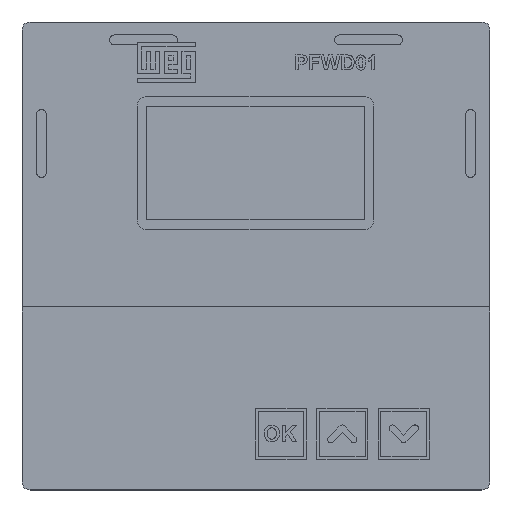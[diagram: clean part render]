
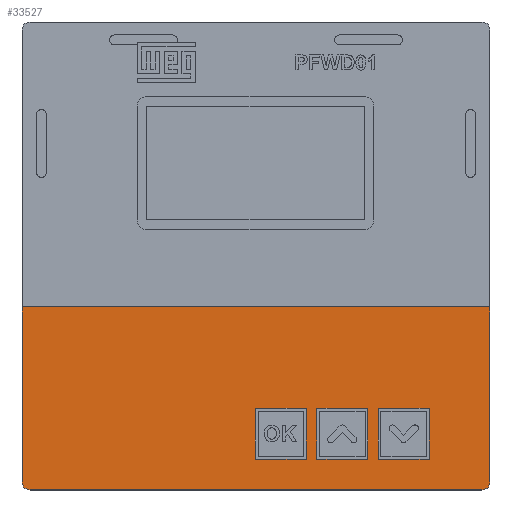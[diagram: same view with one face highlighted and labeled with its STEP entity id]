
A CAD part, top view. The second image highlights one B-rep face of the part: STEP entity #33527.
In plain terms, the highlighted planar face has unit normal (0, 0, 1).
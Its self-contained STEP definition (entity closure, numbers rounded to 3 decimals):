
#257 = DIRECTION ( 'NONE',  ( 0., -1., 0. ) ) ;
#361 = DIRECTION ( 'NONE',  ( 0., 1., 0. ) ) ;
#640 = LINE ( 'NONE', #16891, #42076 ) ;
#826 = VECTOR ( 'NONE', #5962, 1000. ) ;
#1654 = VECTOR ( 'NONE', #361, 1000. ) ;
#2263 = LINE ( 'NONE', #9103, #60604 ) ;
#2529 = VERTEX_POINT ( 'NONE', #49705 ) ;
#3316 = DIRECTION ( 'NONE',  ( 0., 0., 1. ) ) ;
#3391 = EDGE_CURVE ( 'NONE', #17124, #6816, #17786, .T. ) ;
#4122 = CARTESIAN_POINT ( 'NONE',  ( 69.8, -47.091, 4.55 ) ) ;
#5540 = CARTESIAN_POINT ( 'NONE',  ( 37.761, -62.841, 4.55 ) ) ;
#5610 = DIRECTION ( 'NONE',  ( 1., 0., 0. ) ) ;
#5685 = VECTOR ( 'NONE', #27379, 1000. ) ;
#5962 = DIRECTION ( 'NONE',  ( -1., 0., 0. ) ) ;
#6151 = ORIENTED_EDGE ( 'NONE', *, *, #30597, .T. ) ;
#6620 = CARTESIAN_POINT ( 'NONE',  ( 53.511, -69.8, 4.55 ) ) ;
#6729 = EDGE_CURVE ( 'NONE', #6816, #72553, #26116, .T. ) ;
#6816 = VERTEX_POINT ( 'NONE', #84015 ) ;
#7470 = VERTEX_POINT ( 'NONE', #68021 ) ;
#9103 = CARTESIAN_POINT ( 'NONE',  ( 37.761, -69.8, 4.55 ) ) ;
#9972 = DIRECTION ( 'NONE',  ( 0., 0., 1. ) ) ;
#10756 = CARTESIAN_POINT ( 'NONE',  ( -0.181, -69.8, 4.55 ) ) ;
#11171 = VERTEX_POINT ( 'NONE', #76195 ) ;
#11431 = EDGE_LOOP ( 'NONE', ( #25883, #52207, #68464, #50308 ) ) ;
#11888 = LINE ( 'NONE', #77406, #35038 ) ;
#12574 = CARTESIAN_POINT ( 'NONE',  ( 69.8, -62.841, 4.55 ) ) ;
#14661 = CARTESIAN_POINT ( 'NONE',  ( 69.8, -72.3, 4.55 ) ) ;
#15743 = EDGE_CURVE ( 'NONE', #11171, #58743, #49599, .T. ) ;
#16426 = CARTESIAN_POINT ( 'NONE',  ( 15.569, -47.091, 4.55 ) ) ;
#16652 = CARTESIAN_POINT ( 'NONE',  ( -0.181, -47.091, 4.55 ) ) ;
#16891 = CARTESIAN_POINT ( 'NONE',  ( -72.3, -15.755, 4.55 ) ) ;
#16894 = VERTEX_POINT ( 'NONE', #24782 ) ;
#17124 = VERTEX_POINT ( 'NONE', #16426 ) ;
#17610 = DIRECTION ( 'NONE',  ( -1., 0., 0. ) ) ;
#17786 = LINE ( 'NONE', #87446, #47656 ) ;
#18031 = EDGE_CURVE ( 'NONE', #33893, #17124, #11888, .T. ) ;
#19024 = LINE ( 'NONE', #46622, #83573 ) ;
#19360 = VERTEX_POINT ( 'NONE', #60098 ) ;
#20713 = EDGE_CURVE ( 'NONE', #72553, #33893, #25616, .T. ) ;
#20750 = CARTESIAN_POINT ( 'NONE',  ( -72.3, -15.755, 4.55 ) ) ;
#21045 = LINE ( 'NONE', #6620, #68377 ) ;
#21528 = CARTESIAN_POINT ( 'NONE',  ( 34.54, -69.8, 4.55 ) ) ;
#21545 = VERTEX_POINT ( 'NONE', #28412 ) ;
#21601 = EDGE_CURVE ( 'NONE', #2529, #49447, #61484, .T. ) ;
#23104 = CIRCLE ( 'NONE', #43286, 2.5 ) ;
#24398 = DIRECTION ( 'NONE',  ( 1., 0., 0. ) ) ;
#24782 = CARTESIAN_POINT ( 'NONE',  ( -69.8, -72.3, 4.55 ) ) ;
#25616 = LINE ( 'NONE', #10756, #33928 ) ;
#25883 = ORIENTED_EDGE ( 'NONE', *, *, #6729, .T. ) ;
#26116 = LINE ( 'NONE', #12574, #64576 ) ;
#26197 = CARTESIAN_POINT ( 'NONE',  ( 53.511, -47.091, 4.55 ) ) ;
#26236 = ORIENTED_EDGE ( 'NONE', *, *, #35474, .T. ) ;
#27162 = AXIS2_PLACEMENT_3D ( 'NONE', #29662, #64981, #86225 ) ;
#27368 = AXIS2_PLACEMENT_3D ( 'NONE', #31627, #9972, #24398 ) ;
#27379 = DIRECTION ( 'NONE',  ( 1., 0., 0. ) ) ;
#27629 = CARTESIAN_POINT ( 'NONE',  ( 53.511, -62.841, 4.55 ) ) ;
#28412 = CARTESIAN_POINT ( 'NONE',  ( 18.79, -62.841, 4.55 ) ) ;
#29662 = CARTESIAN_POINT ( 'NONE',  ( 69.8, -69.8, 4.55 ) ) ;
#30002 = CARTESIAN_POINT ( 'NONE',  ( 69.8, -69.8, 4.55 ) ) ;
#30109 = FACE_BOUND ( 'NONE', #79183, .T. ) ;
#30597 = EDGE_CURVE ( 'NONE', #36409, #11171, #75706, .T. ) ;
#31151 = EDGE_CURVE ( 'NONE', #58743, #21545, #31176, .T. ) ;
#31176 = LINE ( 'NONE', #37537, #57063 ) ;
#31329 = ORIENTED_EDGE ( 'NONE', *, *, #15743, .T. ) ;
#31627 = CARTESIAN_POINT ( 'NONE',  ( -69.8, -69.8, 4.55 ) ) ;
#32327 = VECTOR ( 'NONE', #5610, 1000. ) ;
#33379 = DIRECTION ( 'NONE',  ( -1., 0., 0. ) ) ;
#33527 = ADVANCED_FACE ( 'NONE', ( #30109, #43656, #56810, #57711 ), #37363, .T. ) ;
#33893 = VERTEX_POINT ( 'NONE', #16652 ) ;
#33928 = VECTOR ( 'NONE', #59592, 1000. ) ;
#35038 = VECTOR ( 'NONE', #69753, 1000. ) ;
#35474 = EDGE_CURVE ( 'NONE', #16894, #53951, #42265, .T. ) ;
#35505 = CARTESIAN_POINT ( 'NONE',  ( -69.8, -72.3, 4.55 ) ) ;
#35593 = VERTEX_POINT ( 'NONE', #5540 ) ;
#36006 = VERTEX_POINT ( 'NONE', #88841 ) ;
#36409 = VERTEX_POINT ( 'NONE', #56859 ) ;
#37363 = PLANE ( 'NONE',  #27162 ) ;
#37537 = CARTESIAN_POINT ( 'NONE',  ( 69.8, -62.841, 4.55 ) ) ;
#39638 = EDGE_CURVE ( 'NONE', #87264, #40465, #21045, .T. ) ;
#40465 = VERTEX_POINT ( 'NONE', #27629 ) ;
#41981 = EDGE_LOOP ( 'NONE', ( #68370, #85849, #76877, #48820 ) ) ;
#42076 = VECTOR ( 'NONE', #58520, 1000. ) ;
#42265 = LINE ( 'NONE', #35505, #5685 ) ;
#43286 = AXIS2_PLACEMENT_3D ( 'NONE', #30002, #3316, #57605 ) ;
#43361 = CARTESIAN_POINT ( 'NONE',  ( -0.181, -62.841, 4.55 ) ) ;
#43656 = FACE_OUTER_BOUND ( 'NONE', #84877, .T. ) ;
#45403 = EDGE_CURVE ( 'NONE', #21545, #36409, #19024, .T. ) ;
#46305 = CARTESIAN_POINT ( 'NONE',  ( 69.8, -47.091, 4.55 ) ) ;
#46527 = EDGE_CURVE ( 'NONE', #7470, #16894, #62072, .T. ) ;
#46622 = CARTESIAN_POINT ( 'NONE',  ( 18.79, -69.8, 4.55 ) ) ;
#46812 = ORIENTED_EDGE ( 'NONE', *, *, #21601, .T. ) ;
#47656 = VECTOR ( 'NONE', #66690, 1000. ) ;
#48361 = DIRECTION ( 'NONE',  ( -1., 0., 0. ) ) ;
#48820 = ORIENTED_EDGE ( 'NONE', *, *, #39638, .T. ) ;
#49447 = VERTEX_POINT ( 'NONE', #87577 ) ;
#49599 = LINE ( 'NONE', #21528, #63732 ) ;
#49640 = EDGE_CURVE ( 'NONE', #49447, #7470, #640, .T. ) ;
#49705 = CARTESIAN_POINT ( 'NONE',  ( 72.3, -15.755, 4.55 ) ) ;
#50308 = ORIENTED_EDGE ( 'NONE', *, *, #3391, .T. ) ;
#52207 = ORIENTED_EDGE ( 'NONE', *, *, #20713, .T. ) ;
#52888 = VECTOR ( 'NONE', #48361, 1000. ) ;
#53814 = LINE ( 'NONE', #81370, #1654 ) ;
#53854 = ORIENTED_EDGE ( 'NONE', *, *, #46527, .T. ) ;
#53951 = VERTEX_POINT ( 'NONE', #14661 ) ;
#56810 = FACE_BOUND ( 'NONE', #11431, .T. ) ;
#56859 = CARTESIAN_POINT ( 'NONE',  ( 18.79, -47.091, 4.55 ) ) ;
#57063 = VECTOR ( 'NONE', #17610, 1000. ) ;
#57605 = DIRECTION ( 'NONE',  ( 1., 0., 0. ) ) ;
#57711 = FACE_BOUND ( 'NONE', #41981, .T. ) ;
#58520 = DIRECTION ( 'NONE',  ( 0., -1., 0. ) ) ;
#58743 = VERTEX_POINT ( 'NONE', #75132 ) ;
#59592 = DIRECTION ( 'NONE',  ( 0., 1., 0. ) ) ;
#60098 = CARTESIAN_POINT ( 'NONE',  ( 37.761, -47.091, 4.55 ) ) ;
#60604 = VECTOR ( 'NONE', #65632, 1000. ) ;
#61484 = LINE ( 'NONE', #20750, #52888 ) ;
#61808 = EDGE_CURVE ( 'NONE', #35593, #19360, #2263, .T. ) ;
#62072 = CIRCLE ( 'NONE', #27368, 2.5 ) ;
#62704 = ORIENTED_EDGE ( 'NONE', *, *, #63351, .T. ) ;
#63165 = DIRECTION ( 'NONE',  ( 0., -1., 0. ) ) ;
#63351 = EDGE_CURVE ( 'NONE', #53951, #36006, #23104, .T. ) ;
#63729 = EDGE_CURVE ( 'NONE', #19360, #87264, #69122, .T. ) ;
#63732 = VECTOR ( 'NONE', #63165, 1000. ) ;
#64576 = VECTOR ( 'NONE', #33379, 1000. ) ;
#64981 = DIRECTION ( 'NONE',  ( 0., 0., 1. ) ) ;
#65632 = DIRECTION ( 'NONE',  ( 0., 1., 0. ) ) ;
#66690 = DIRECTION ( 'NONE',  ( 0., -1., 0. ) ) ;
#67674 = ORIENTED_EDGE ( 'NONE', *, *, #49640, .T. ) ;
#67944 = LINE ( 'NONE', #81045, #826 ) ;
#68021 = CARTESIAN_POINT ( 'NONE',  ( -72.3, -69.8, 4.55 ) ) ;
#68370 = ORIENTED_EDGE ( 'NONE', *, *, #74041, .T. ) ;
#68377 = VECTOR ( 'NONE', #257, 1000. ) ;
#68464 = ORIENTED_EDGE ( 'NONE', *, *, #18031, .T. ) ;
#69122 = LINE ( 'NONE', #4122, #73762 ) ;
#69753 = DIRECTION ( 'NONE',  ( 1., 0., 0. ) ) ;
#72553 = VERTEX_POINT ( 'NONE', #43361 ) ;
#73762 = VECTOR ( 'NONE', #89484, 1000. ) ;
#74041 = EDGE_CURVE ( 'NONE', #40465, #35593, #67944, .T. ) ;
#74244 = DIRECTION ( 'NONE',  ( 0., 1., 0. ) ) ;
#75132 = CARTESIAN_POINT ( 'NONE',  ( 34.54, -62.841, 4.55 ) ) ;
#75706 = LINE ( 'NONE', #46305, #32327 ) ;
#76195 = CARTESIAN_POINT ( 'NONE',  ( 34.54, -47.091, 4.55 ) ) ;
#76877 = ORIENTED_EDGE ( 'NONE', *, *, #63729, .T. ) ;
#76962 = ORIENTED_EDGE ( 'NONE', *, *, #45403, .T. ) ;
#77406 = CARTESIAN_POINT ( 'NONE',  ( 69.8, -47.091, 4.55 ) ) ;
#77830 = ORIENTED_EDGE ( 'NONE', *, *, #85816, .T. ) ;
#79183 = EDGE_LOOP ( 'NONE', ( #85342, #76962, #6151, #31329 ) ) ;
#81045 = CARTESIAN_POINT ( 'NONE',  ( 69.8, -62.841, 4.55 ) ) ;
#81370 = CARTESIAN_POINT ( 'NONE',  ( 72.3, -15.755, 4.55 ) ) ;
#83573 = VECTOR ( 'NONE', #74244, 1000. ) ;
#84015 = CARTESIAN_POINT ( 'NONE',  ( 15.569, -62.841, 4.55 ) ) ;
#84877 = EDGE_LOOP ( 'NONE', ( #77830, #46812, #67674, #53854, #26236, #62704 ) ) ;
#85342 = ORIENTED_EDGE ( 'NONE', *, *, #31151, .T. ) ;
#85816 = EDGE_CURVE ( 'NONE', #36006, #2529, #53814, .T. ) ;
#85849 = ORIENTED_EDGE ( 'NONE', *, *, #61808, .T. ) ;
#86225 = DIRECTION ( 'NONE',  ( 1., 0., 0. ) ) ;
#87264 = VERTEX_POINT ( 'NONE', #26197 ) ;
#87446 = CARTESIAN_POINT ( 'NONE',  ( 15.569, -69.8, 4.55 ) ) ;
#87577 = CARTESIAN_POINT ( 'NONE',  ( -72.3, -15.755, 4.55 ) ) ;
#88841 = CARTESIAN_POINT ( 'NONE',  ( 72.3, -69.8, 4.55 ) ) ;
#89484 = DIRECTION ( 'NONE',  ( 1., 0., 0. ) ) ;
